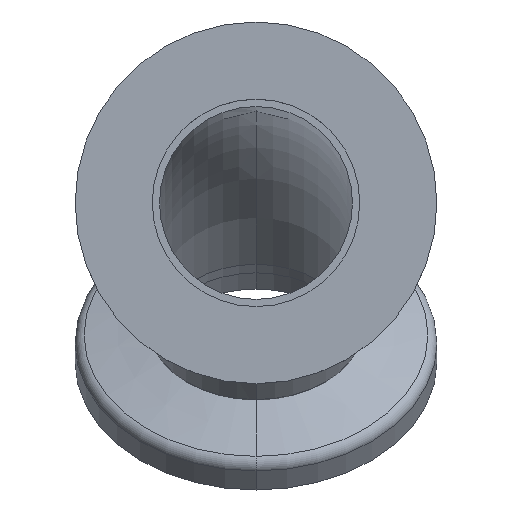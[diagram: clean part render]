
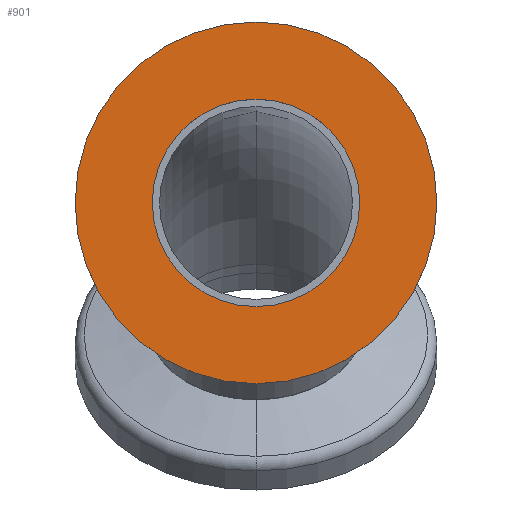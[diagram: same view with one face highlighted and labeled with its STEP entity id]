
A CAD part, top view. The second image highlights one B-rep face of the part: STEP entity #901.
In plain terms, the highlighted planar face has unit normal (0, 0, 1).
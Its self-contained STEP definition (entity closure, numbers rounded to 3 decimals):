
#52 = EDGE_LOOP ( 'NONE', ( #654, #935 ) ) ;
#74 = CIRCLE ( 'NONE', #615, 15. ) ;
#107 = DIRECTION ( 'NONE',  ( 0., 0., 1. ) ) ;
#123 = CIRCLE ( 'NONE', #180, 8.6 ) ;
#138 = AXIS2_PLACEMENT_3D ( 'NONE', #532, #140, #703 ) ;
#140 = DIRECTION ( 'NONE',  ( 0., 0., 1. ) ) ;
#180 = AXIS2_PLACEMENT_3D ( 'NONE', #864, #1019, #209 ) ;
#209 = DIRECTION ( 'NONE',  ( 1., 0., 0. ) ) ;
#242 = CIRCLE ( 'NONE', #396, 8.6 ) ;
#247 = CARTESIAN_POINT ( 'NONE',  ( 0., 0., 0. ) ) ;
#261 = FACE_OUTER_BOUND ( 'NONE', #503, .T. ) ;
#265 = CARTESIAN_POINT ( 'NONE',  ( 0., 0., 0. ) ) ;
#292 = EDGE_CURVE ( 'NONE', #483, #582, #74, .T. ) ;
#306 = ORIENTED_EDGE ( 'NONE', *, *, #292, .T. ) ;
#396 = AXIS2_PLACEMENT_3D ( 'NONE', #265, #826, #837 ) ;
#401 = DIRECTION ( 'NONE',  ( 0., 0., 1. ) ) ;
#423 = CARTESIAN_POINT ( 'NONE',  ( -15., 0., 0. ) ) ;
#431 = EDGE_CURVE ( 'NONE', #649, #562, #242, .T. ) ;
#455 = ORIENTED_EDGE ( 'NONE', *, *, #493, .T. ) ;
#481 = DIRECTION ( 'NONE',  ( 1., 0., 0. ) ) ;
#483 = VERTEX_POINT ( 'NONE', #423 ) ;
#493 = EDGE_CURVE ( 'NONE', #582, #483, #928, .T. ) ;
#503 = EDGE_LOOP ( 'NONE', ( #455, #306 ) ) ;
#531 = AXIS2_PLACEMENT_3D ( 'NONE', #247, #107, #823 ) ;
#532 = CARTESIAN_POINT ( 'NONE',  ( 0., 15., 0. ) ) ;
#562 = VERTEX_POINT ( 'NONE', #775 ) ;
#582 = VERTEX_POINT ( 'NONE', #1004 ) ;
#596 = FACE_BOUND ( 'NONE', #52, .T. ) ;
#615 = AXIS2_PLACEMENT_3D ( 'NONE', #821, #401, #481 ) ;
#649 = VERTEX_POINT ( 'NONE', #945 ) ;
#654 = ORIENTED_EDGE ( 'NONE', *, *, #431, .F. ) ;
#703 = DIRECTION ( 'NONE',  ( 1., 0., 0. ) ) ;
#775 = CARTESIAN_POINT ( 'NONE',  ( -8.6, 0., 0. ) ) ;
#821 = CARTESIAN_POINT ( 'NONE',  ( 0., 0., 0. ) ) ;
#823 = DIRECTION ( 'NONE',  ( 1., 0., 0. ) ) ;
#826 = DIRECTION ( 'NONE',  ( 0., 0., 1. ) ) ;
#837 = DIRECTION ( 'NONE',  ( 1., 0., 0. ) ) ;
#864 = CARTESIAN_POINT ( 'NONE',  ( 0., 0., 0. ) ) ;
#901 = ADVANCED_FACE ( 'NONE', ( #261, #596 ), #946, .T. ) ;
#928 = CIRCLE ( 'NONE', #531, 15. ) ;
#935 = ORIENTED_EDGE ( 'NONE', *, *, #951, .F. ) ;
#945 = CARTESIAN_POINT ( 'NONE',  ( 8.6, 0., 0. ) ) ;
#946 = PLANE ( 'NONE',  #138 ) ;
#951 = EDGE_CURVE ( 'NONE', #562, #649, #123, .T. ) ;
#1004 = CARTESIAN_POINT ( 'NONE',  ( 15., 0., 0. ) ) ;
#1019 = DIRECTION ( 'NONE',  ( 0., 0., 1. ) ) ;
